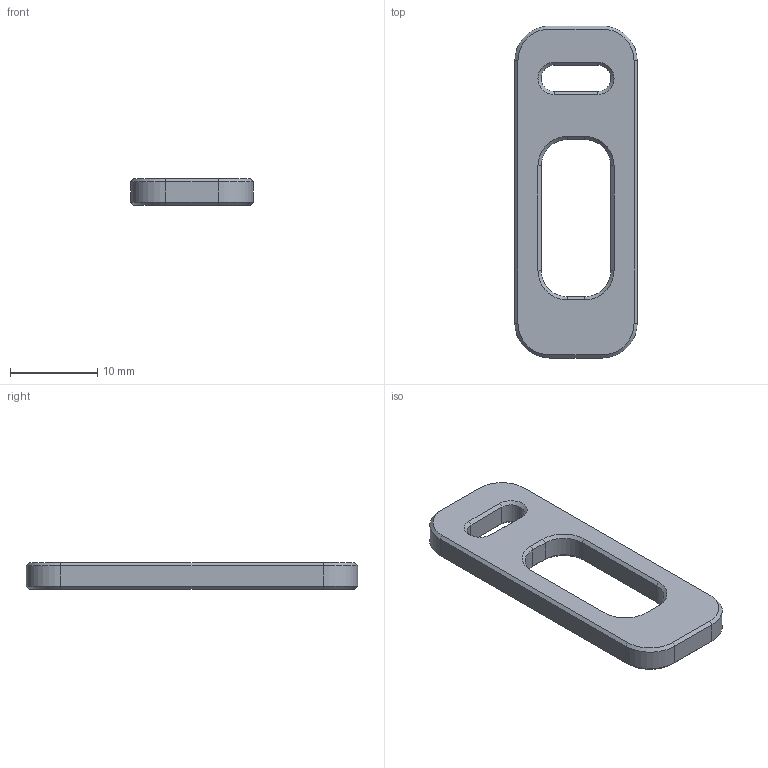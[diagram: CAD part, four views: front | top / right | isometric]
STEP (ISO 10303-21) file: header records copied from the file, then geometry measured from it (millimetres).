
FILE_DESCRIPTION(('Open CASCADE Model'),'2;1');
FILE_NAME('Open CASCADE Shape Model','2026-09-27T14:38:10',('Author'),( 'Open CASCADE'),'Open CASCADE STEP processor 7.9','Open CASCADE 7.9' ,'Unknown');
FILE_SCHEMA(('AUTOMOTIVE_DESIGN { 1 0 10303 214 1 1 1 1 }'));
Length unit declared in the file: millimetre
Products named in the file (1): Open CASCADE STEP translator 7.9 1
Bounding box: 14 x 38 x 3 mm (x, y, z)
Volume: 1059.7 mm3; surface area: 1143.4 mm2
Topology: 1 solids, 1 shells, 62 faces, 140 edges, 80 vertices
Faces by surface type: plane 32, cone 20, cylinder 10
Entity records: 3448 total; most frequent: CARTESIAN_POINT 655, DIRECTION 504, ORIENTED_EDGE 280, LINE 280, VECTOR 280, PCURVE 280, DEFINITIONAL_REPRESENTATION 280, EDGE_CURVE 140
